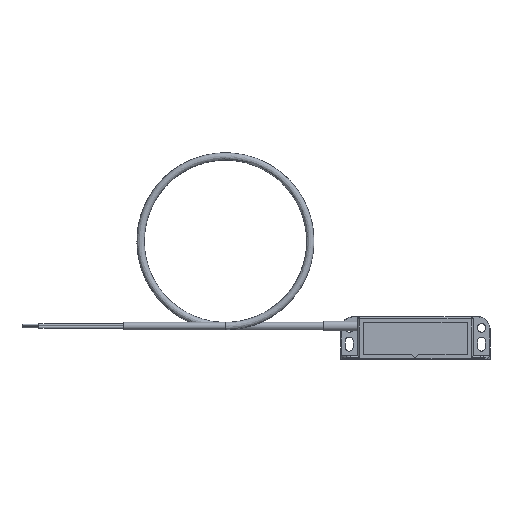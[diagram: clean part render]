
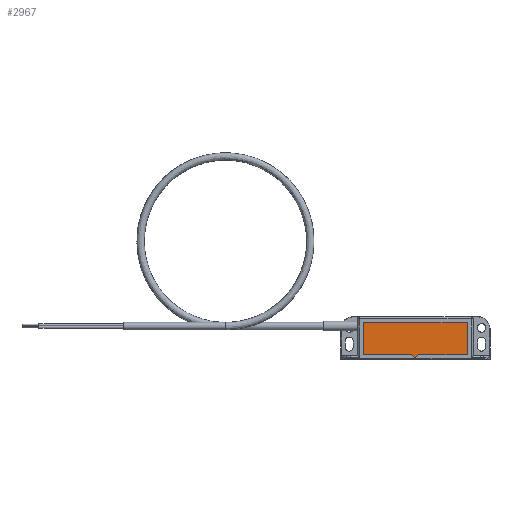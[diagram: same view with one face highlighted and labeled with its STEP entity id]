
A CAD part, top view. The second image highlights one B-rep face of the part: STEP entity #2967.
In plain terms, the highlighted planar face has unit normal (0, 0, 1).
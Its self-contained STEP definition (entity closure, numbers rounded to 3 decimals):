
#355=FACE_OUTER_BOUND('',#541,.T.);
#541=EDGE_LOOP('',(#2554,#2555,#2556,#2557,#2558,#2559,#2560,#2561,#2562,
#2563));
#823=LINE('',#5459,#1134);
#825=LINE('',#5464,#1136);
#832=LINE('',#5478,#1143);
#849=LINE('',#5511,#1160);
#852=LINE('',#5516,#1163);
#856=LINE('',#5524,#1167);
#858=LINE('',#5527,#1169);
#864=LINE('',#5623,#1175);
#866=LINE('',#5627,#1177);
#868=LINE('',#5630,#1179);
#1134=VECTOR('',#3895,10.);
#1136=VECTOR('',#3899,10.);
#1143=VECTOR('',#3908,10.);
#1160=VECTOR('',#3929,10.);
#1163=VECTOR('',#3934,10.);
#1167=VECTOR('',#3940,10.);
#1169=VECTOR('',#3944,10.);
#1175=VECTOR('',#3960,10.);
#1177=VECTOR('',#3964,10.);
#1179=VECTOR('',#3968,10.);
#1404=VERTEX_POINT('',#5456);
#1405=VERTEX_POINT('',#5458);
#1406=VERTEX_POINT('',#5462);
#1407=VERTEX_POINT('',#5463);
#1413=VERTEX_POINT('',#5476);
#1427=VERTEX_POINT('',#5510);
#1428=VERTEX_POINT('',#5514);
#1429=VERTEX_POINT('',#5518);
#1439=VERTEX_POINT('',#5622);
#1440=VERTEX_POINT('',#5626);
#1776=EDGE_CURVE('',#1405,#1404,#823,.T.);
#1778=EDGE_CURVE('',#1406,#1407,#825,.T.);
#1785=EDGE_CURVE('',#1404,#1413,#832,.T.);
#1802=EDGE_CURVE('',#1427,#1405,#849,.T.);
#1805=EDGE_CURVE('',#1407,#1428,#852,.T.);
#1809=EDGE_CURVE('',#1429,#1406,#856,.T.);
#1811=EDGE_CURVE('',#1413,#1429,#858,.T.);
#1821=EDGE_CURVE('',#1439,#1427,#864,.T.);
#1823=EDGE_CURVE('',#1440,#1439,#866,.T.);
#1825=EDGE_CURVE('',#1428,#1440,#868,.T.);
#2554=ORIENTED_EDGE('',*,*,#1776,.T.);
#2555=ORIENTED_EDGE('',*,*,#1785,.T.);
#2556=ORIENTED_EDGE('',*,*,#1811,.T.);
#2557=ORIENTED_EDGE('',*,*,#1809,.T.);
#2558=ORIENTED_EDGE('',*,*,#1778,.T.);
#2559=ORIENTED_EDGE('',*,*,#1805,.T.);
#2560=ORIENTED_EDGE('',*,*,#1825,.T.);
#2561=ORIENTED_EDGE('',*,*,#1823,.T.);
#2562=ORIENTED_EDGE('',*,*,#1821,.T.);
#2563=ORIENTED_EDGE('',*,*,#1802,.T.);
#2817=PLANE('',#3223);
#2967=ADVANCED_FACE('',(#355),#2817,.F.);
#3223=AXIS2_PLACEMENT_3D('',#5631,#3969,#3970);
#3895=DIRECTION('',(0.707,-0.707,0.));
#3899=DIRECTION('',(0.707,0.707,0.));
#3908=DIRECTION('',(0.,-1.,0.));
#3929=DIRECTION('',(1.,0.,0.));
#3934=DIRECTION('',(1.,0.,0.));
#3940=DIRECTION('',(0.,1.,0.));
#3944=DIRECTION('',(1.,0.,0.));
#3960=DIRECTION('',(0.,-1.,0.));
#3964=DIRECTION('',(-1.,0.,0.));
#3968=DIRECTION('',(0.,1.,0.));
#3969=DIRECTION('center_axis',(0.,0.,-1.));
#3970=DIRECTION('ref_axis',(-1.,0.,0.));
#5456=CARTESIAN_POINT('',(-0.25,0.7,12.8));
#5458=CARTESIAN_POINT('',(-2.05,2.5,12.8));
#5459=CARTESIAN_POINT('',(-0.25,0.7,12.8));
#5462=CARTESIAN_POINT('',(0.25,0.7,12.8));
#5463=CARTESIAN_POINT('',(2.05,2.5,12.8));
#5464=CARTESIAN_POINT('',(2.05,2.5,12.8));
#5476=CARTESIAN_POINT('',(-0.25,0.323,12.8));
#5478=CARTESIAN_POINT('',(-0.25,0.,12.8));
#5510=CARTESIAN_POINT('',(-30.5,2.5,12.8));
#5511=CARTESIAN_POINT('',(30.5,2.5,12.8));
#5514=CARTESIAN_POINT('',(30.5,2.5,12.8));
#5516=CARTESIAN_POINT('',(30.5,2.5,12.8));
#5518=CARTESIAN_POINT('',(0.25,0.323,12.8));
#5524=CARTESIAN_POINT('',(0.25,0.7,12.8));
#5527=CARTESIAN_POINT('',(0.,0.323,12.8));
#5622=CARTESIAN_POINT('',(-30.5,21.5,12.8));
#5623=CARTESIAN_POINT('',(-30.5,2.5,12.8));
#5626=CARTESIAN_POINT('',(30.5,21.5,12.8));
#5627=CARTESIAN_POINT('',(-30.5,21.5,12.8));
#5630=CARTESIAN_POINT('',(30.5,21.5,12.8));
#5631=CARTESIAN_POINT('Origin',(0.,12.,12.8));
